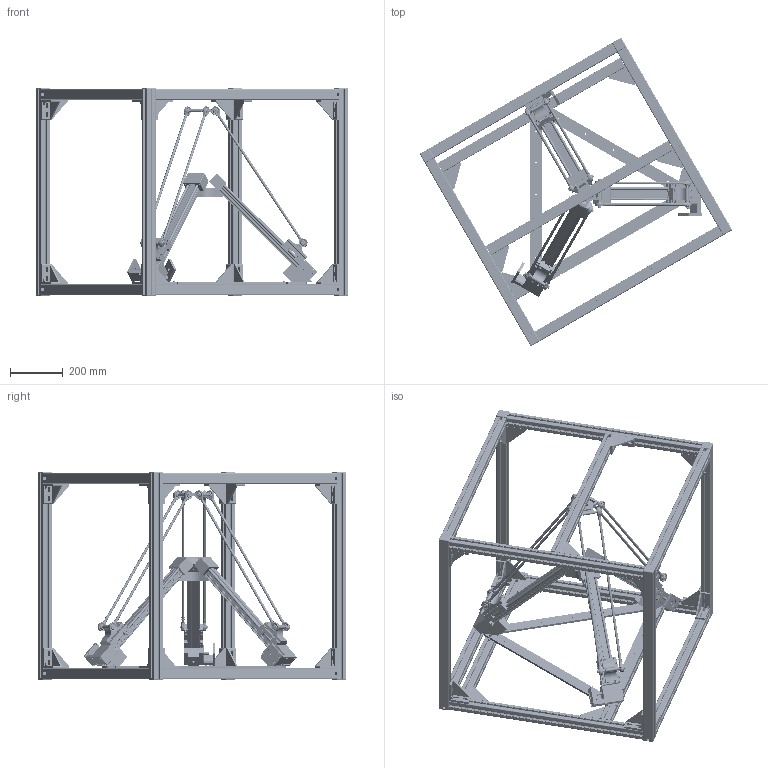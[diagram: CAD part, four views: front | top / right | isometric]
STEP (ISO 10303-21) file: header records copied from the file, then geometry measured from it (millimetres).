
FILE_DESCRIPTION(/* description */ (''),/* implementation_level */ '2;1');
FILE_NAME(/* name */ 'I:\Gleitlager\Konstruktion\SERIE NEU (im Aufbau!!)\drylin E\Deltaroboter\Modelle\DLE-DR-0055\DLE-DR-0055.stp',/* time_stamp */ '2019-07-29T15:01:53+02:00',/* author */ ('fkoeching'),/* organization */ (''),/* preprocessor_version */ 'ST-DEVELOPER v17',/* originating_system */ 'Autodesk Inventor 2018',/* authorisation */ '');
FILE_SCHEMA (('AUTOMOTIVE_DESIGN { 1 0 10303 214 3 1 1 }'));
Products named in the file (65): DLE-DR-0055; ETY-DR-0023; ETY-DR-0013; DLE-DR-ZLW-0005; ZSX-104001; ZTL-104002; SAXT-104001; ZTL-10400S-V; SAWT-104002; NOR-10412; ZR-104001; ZR-104001-XX; ZSY-104002; NOR-10703; ZTF-104004; SAXT-104004; SAXT-104002; NOR-10614; ZTF-10400S-V; SAWT-104001; ZTY-104035; NOR-20901; JTEM-10; ZTZ-104009; NOR-10604; ZSA-104001-AL; ZSY-104001; WJ200UMA-01-10-AL; WMA-01-10-AL; WRZ-011007; J200UMA-01-10; NOR-10601; MF-1040-NEMA23-S; zty104004; ZTY-104010; DIN 7984 M6 x 16; ETY-DR-0011; ZWY-104001; ETY-DR-0021; ETY-DR-0022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
Assembly tree (260 placements, depth 5):
  DLE-DR-0055
    ETY-DR-0023
    ETY-DR-0013  x3
    DLE-DR-ZLW-0005  x3
      ZSX-104001
      ZTL-104002
        SAXT-104001
        SAXT-104002
        NOR-10614  x2
        ZTL-10400S-V
          SAWT-104002
          NOR-10412  x4
          NOR-10604  x4
          JTEM-10  x4
          NOR-20901  x2
          ZTY-104035  x2
        ZTZ-104009  x2
      ZR-104001
        ZR-104001-XX
        NOR-10703  x2
        ZSY-104002  x2
      ZTF-104004
        SAXT-104004
        SAXT-104002
        NOR-10614  x2
        ZTF-10400S-V
          JTEM-10  x4
          SAWT-104001
          ZTY-104035  x2
          NOR-20901  x2
        ZTZ-104009  x2
        NOR-10604  x2
      ZSA-104001-AL
        ZSY-104001
        WJ200UMA-01-10-AL  x4
          WMA-01-10-AL
          WRZ-011007
          J200UMA-01-10
        NOR-10601  x4
      MF-1040-NEMA23-S
        zty104004
        ZTY-104010
        DIN 7984 M6 x 16  x2
    ETY-DR-0011
    ZWY-104001  x3
    ETY-DR-0021  x3
    ETY-DR-0022
    KDGM-DR-12-A-ER-J-600  x6
      RDGM-12X0.75-3000-ES
      /D/KARM-12-CL-KDGM
      ETY-DR-0024
    AK-DR-0007
      ETY-DR-0020  x12
      NOR-10737  x12
      NOR-10610  x3
      NOR-20602  x6
      NOR-10514  x3
      NOR-10629  x12
      NOR-10609  x12
      NOR-10628  x12
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Bounding box: 1179.89 x 1165.25 x 788 mm (x, y, z)
Volume: 11596738 mm3; surface area: 8696163.4 mm2
Topology: 390 solids, 390 shells, 18429 faces, 49793 edges, 32673 vertices
Faces by surface type: plane 11020, cylinder 4622, bspline 1152, cone 941, torus 452, sphere 242
Full cylindrical faces by diameter (mm): 2.5 x15, 3 x4, 3.2 x3, 3.242 x12, 3.5 x4, 4 x54, 4.134 x78, 4.2 x4, 4.5 x24, 4.917 x66, 5 x136, 5.3 x4, 5.4 x3, 5.5 x64, 6 x86, 6.2 x24, 6.6 x42, 6.647 x6, 7 x12, 7.2 x12, 8 x36, 8.5 x40, 9.43 x12, 9.5 x24, 9.8 x12, 10 x142, 10.2 x24, 10.5 x8, 11 x54, 12 x33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
Entity records: 110723 total; most frequent: CARTESIAN_POINT 27800, DIRECTION 16902, ORIENTED_EDGE 16594, EDGE_CURVE 8297, AXIS2_PLACEMENT_3D 5892, VERTEX_POINT 5517, LINE 5118, VECTOR 5118
